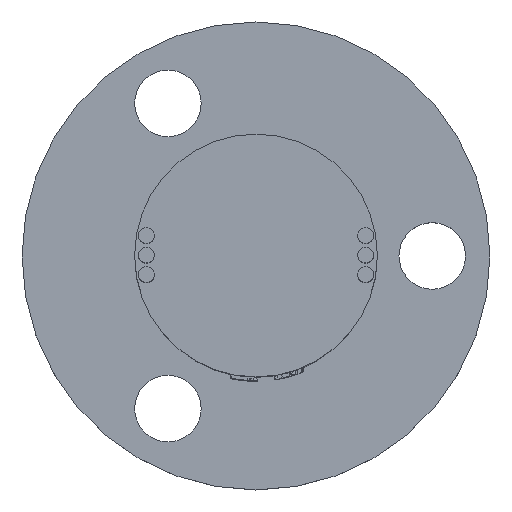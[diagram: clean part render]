
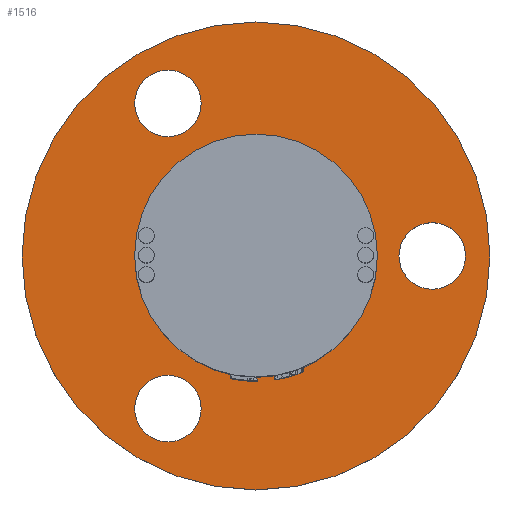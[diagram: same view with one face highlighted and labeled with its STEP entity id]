
A CAD part, top view. The second image highlights one B-rep face of the part: STEP entity #1516.
In plain terms, the highlighted planar face has unit normal (0, 0, 1).
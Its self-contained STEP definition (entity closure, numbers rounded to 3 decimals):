
#136=FACE_BOUND('',#2844,.T.);
#137=FACE_BOUND('',#2845,.T.);
#138=FACE_BOUND('',#2846,.T.);
#139=FACE_BOUND('',#2847,.T.);
#140=FACE_BOUND('',#2848,.T.);
#249=CIRCLE('',#10547,6.2);
#250=CIRCLE('',#10549,1.7);
#251=CIRCLE('',#10550,1.7);
#252=CIRCLE('',#10551,1.7);
#253=CIRCLE('',#10552,11.95);
#1516=ADVANCED_FACE('',(#136,#137,#138,#139,#140),#1836,.T.);
#1836=PLANE('',#10553);
#2844=EDGE_LOOP('',(#5194));
#2845=EDGE_LOOP('',(#5195));
#2846=EDGE_LOOP('',(#5196));
#2847=EDGE_LOOP('',(#5197));
#2848=EDGE_LOOP('',(#5198));
#5194=ORIENTED_EDGE('',*,*,#8408,.F.);
#5195=ORIENTED_EDGE('',*,*,#8409,.F.);
#5196=ORIENTED_EDGE('',*,*,#8410,.F.);
#5197=ORIENTED_EDGE('',*,*,#8411,.F.);
#5198=ORIENTED_EDGE('',*,*,#8412,.F.);
#6976=VERTEX_POINT('',#20876);
#6977=VERTEX_POINT('',#20879);
#6978=VERTEX_POINT('',#20881);
#6979=VERTEX_POINT('',#20883);
#6980=VERTEX_POINT('',#20885);
#8408=EDGE_CURVE('',#6976,#6976,#249,.T.);
#8409=EDGE_CURVE('',#6977,#6977,#250,.T.);
#8410=EDGE_CURVE('',#6978,#6978,#251,.T.);
#8411=EDGE_CURVE('',#6979,#6979,#252,.T.);
#8412=EDGE_CURVE('',#6980,#6980,#253,.T.);
#10547=AXIS2_PLACEMENT_3D('',#20875,#11585,#11586);
#10549=AXIS2_PLACEMENT_3D('',#20878,#11589,#11590);
#10550=AXIS2_PLACEMENT_3D('',#20880,#11591,#11592);
#10551=AXIS2_PLACEMENT_3D('',#20882,#11593,#11594);
#10552=AXIS2_PLACEMENT_3D('',#20884,#11595,#11596);
#10553=AXIS2_PLACEMENT_3D('',#20886,#11597,#11598);
#11585=DIRECTION('',(0.,0.,1.));
#11586=DIRECTION('',(1.,0.,0.));
#11589=DIRECTION('',(0.,0.,1.));
#11590=DIRECTION('',(1.,0.,0.));
#11591=DIRECTION('',(0.,0.,1.));
#11592=DIRECTION('',(1.,0.,0.));
#11593=DIRECTION('',(0.,0.,1.));
#11594=DIRECTION('',(1.,0.,0.));
#11595=DIRECTION('',(0.,0.,-1.));
#11596=DIRECTION('',(1.,0.,0.));
#11597=DIRECTION('',(0.,0.,1.));
#11598=DIRECTION('',(1.,0.,0.));
#20875=CARTESIAN_POINT('',(0.,0.,5.5));
#20876=CARTESIAN_POINT('',(6.2,0.,5.5));
#20878=CARTESIAN_POINT('',(9.,0.,5.5));
#20879=CARTESIAN_POINT('',(10.7,0.,5.5));
#20880=CARTESIAN_POINT('',(-4.5,7.794,5.5));
#20881=CARTESIAN_POINT('',(-2.8,7.794,5.5));
#20882=CARTESIAN_POINT('',(-4.5,-7.794,5.5));
#20883=CARTESIAN_POINT('',(-2.8,-7.794,5.5));
#20884=CARTESIAN_POINT('',(0.,0.,5.5));
#20885=CARTESIAN_POINT('',(11.95,0.,5.5));
#20886=CARTESIAN_POINT('',(0.,0.,5.5));
